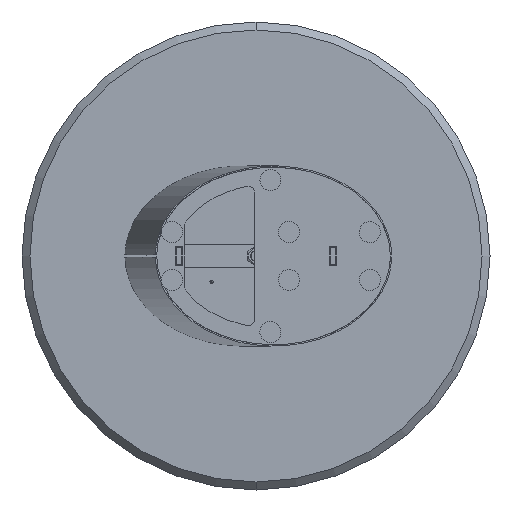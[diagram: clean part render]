
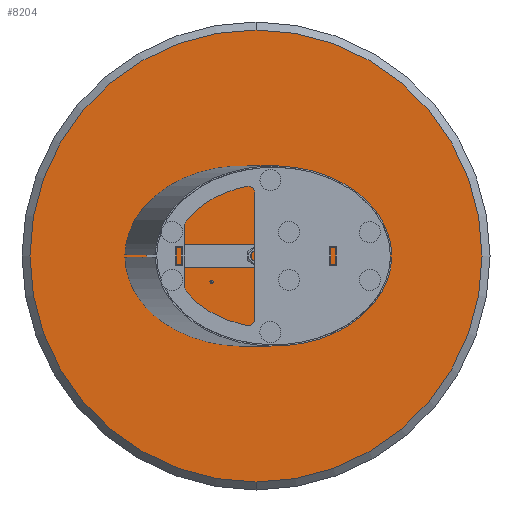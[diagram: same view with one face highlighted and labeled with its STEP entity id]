
A CAD part, front view. The second image highlights one B-rep face of the part: STEP entity #8204.
In plain terms, the highlighted planar face has unit normal (0, -1, 0).
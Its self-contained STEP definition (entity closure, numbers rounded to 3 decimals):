
#185 = DIRECTION ( 'NONE',  ( 0., 0., -1. ) ) ;
#269 = FACE_BOUND ( 'NONE', #642, .T. ) ;
#291 = CARTESIAN_POINT ( 'NONE',  ( 95., 0., -58.248 ) ) ;
#396 = CARTESIAN_POINT ( 'NONE',  ( 0., 0., 113.097 ) ) ;
#400 = DIRECTION ( 'NONE',  ( 0., 0., -1. ) ) ;
#510 = CARTESIAN_POINT ( 'NONE',  ( -95., 0., -54.848 ) ) ;
#642 = EDGE_LOOP ( 'NONE', ( #5388, #2363 ) ) ;
#670 = VERTEX_POINT ( 'NONE', #2116 ) ;
#784 = EDGE_CURVE ( 'NONE', #7513, #5118, #953, .T. ) ;
#846 = CARTESIAN_POINT ( 'NONE',  ( 0., 0., 109.697 ) ) ;
#953 = CIRCLE ( 'NONE', #4978, 3.4 ) ;
#976 = CARTESIAN_POINT ( 'NONE',  ( 95., 0., -54.848 ) ) ;
#1100 = DIRECTION ( 'NONE',  ( 0., -1., 0. ) ) ;
#1106 = ORIENTED_EDGE ( 'NONE', *, *, #784, .F. ) ;
#1277 = AXIS2_PLACEMENT_3D ( 'NONE', #4828, #6727, #400 ) ;
#1329 = ORIENTED_EDGE ( 'NONE', *, *, #5484, .F. ) ;
#1351 = VERTEX_POINT ( 'NONE', #7926 ) ;
#1412 = AXIS2_PLACEMENT_3D ( 'NONE', #2075, #4647, #3858 ) ;
#1541 = AXIS2_PLACEMENT_3D ( 'NONE', #8093, #4265, #2322 ) ;
#1559 = VERTEX_POINT ( 'NONE', #4790 ) ;
#1599 = AXIS2_PLACEMENT_3D ( 'NONE', #846, #8052, #1645 ) ;
#1645 = DIRECTION ( 'NONE',  ( 0., 0., -1. ) ) ;
#1686 = CIRCLE ( 'NONE', #1541, 3.4 ) ;
#1859 = DIRECTION ( 'NONE',  ( 0., 0., -1. ) ) ;
#1903 = DIRECTION ( 'NONE',  ( 0., 0., -1. ) ) ;
#1954 = AXIS2_PLACEMENT_3D ( 'NONE', #7591, #1100, #6790 ) ;
#2021 = DIRECTION ( 'NONE',  ( 0., -1., 0. ) ) ;
#2030 = VERTEX_POINT ( 'NONE', #396 ) ;
#2075 = CARTESIAN_POINT ( 'NONE',  ( 0., 0., 0. ) ) ;
#2116 = CARTESIAN_POINT ( 'NONE',  ( 0., 0., 106.297 ) ) ;
#2218 = PLANE ( 'NONE',  #6534 ) ;
#2309 = AXIS2_PLACEMENT_3D ( 'NONE', #3084, #6366, #1859 ) ;
#2322 = DIRECTION ( 'NONE',  ( 0., 0., -1. ) ) ;
#2336 = AXIS2_PLACEMENT_3D ( 'NONE', #2883, #6031, #3276 ) ;
#2363 = ORIENTED_EDGE ( 'NONE', *, *, #7171, .F. ) ;
#2732 = EDGE_CURVE ( 'NONE', #2030, #670, #3092, .T. ) ;
#2883 = CARTESIAN_POINT ( 'NONE',  ( -95., 0., -54.848 ) ) ;
#2899 = CIRCLE ( 'NONE', #1412, 3.4 ) ;
#2907 = EDGE_CURVE ( 'NONE', #670, #2030, #3628, .T. ) ;
#3028 = CARTESIAN_POINT ( 'NONE',  ( 0., 0., 3.4 ) ) ;
#3084 = CARTESIAN_POINT ( 'NONE',  ( 0., 0., 109.697 ) ) ;
#3092 = CIRCLE ( 'NONE', #1599, 3.4 ) ;
#3220 = VERTEX_POINT ( 'NONE', #5214 ) ;
#3224 = EDGE_CURVE ( 'NONE', #4401, #3220, #7033, .T. ) ;
#3276 = DIRECTION ( 'NONE',  ( 0., 0., -1. ) ) ;
#3360 = FACE_OUTER_BOUND ( 'NONE', #3806, .T. ) ;
#3479 = FACE_BOUND ( 'NONE', #5066, .T. ) ;
#3511 = ORIENTED_EDGE ( 'NONE', *, *, #5368, .F. ) ;
#3528 = AXIS2_PLACEMENT_3D ( 'NONE', #5293, #2021, #1903 ) ;
#3553 = ORIENTED_EDGE ( 'NONE', *, *, #2732, .F. ) ;
#3613 = CARTESIAN_POINT ( 'NONE',  ( 95., 0., -51.448 ) ) ;
#3622 = EDGE_LOOP ( 'NONE', ( #4473, #3553 ) ) ;
#3628 = CIRCLE ( 'NONE', #2309, 3.4 ) ;
#3806 = EDGE_LOOP ( 'NONE', ( #8310, #4226 ) ) ;
#3858 = DIRECTION ( 'NONE',  ( 0., 0., -1. ) ) ;
#4017 = DIRECTION ( 'NONE',  ( 0., 0., -1. ) ) ;
#4226 = ORIENTED_EDGE ( 'NONE', *, *, #7159, .T. ) ;
#4265 = DIRECTION ( 'NONE',  ( 0., -1., 0. ) ) ;
#4358 = AXIS2_PLACEMENT_3D ( 'NONE', #510, #6332, #8099 ) ;
#4401 = VERTEX_POINT ( 'NONE', #5725 ) ;
#4473 = ORIENTED_EDGE ( 'NONE', *, *, #2907, .F. ) ;
#4636 = CIRCLE ( 'NONE', #1277, 3.4 ) ;
#4647 = DIRECTION ( 'NONE',  ( 0., -1., 0. ) ) ;
#4749 = CIRCLE ( 'NONE', #4358, 3.4 ) ;
#4787 = CARTESIAN_POINT ( 'NONE',  ( 0., 0., 0. ) ) ;
#4790 = CARTESIAN_POINT ( 'NONE',  ( 0., 0., -3.4 ) ) ;
#4828 = CARTESIAN_POINT ( 'NONE',  ( 95., 0., -54.848 ) ) ;
#4897 = ORIENTED_EDGE ( 'NONE', *, *, #6509, .F. ) ;
#4978 = AXIS2_PLACEMENT_3D ( 'NONE', #976, #6117, #4017 ) ;
#5066 = EDGE_LOOP ( 'NONE', ( #1329, #3511 ) ) ;
#5118 = VERTEX_POINT ( 'NONE', #3613 ) ;
#5214 = CARTESIAN_POINT ( 'NONE',  ( 0., 0., -483. ) ) ;
#5293 = CARTESIAN_POINT ( 'NONE',  ( 0., 0., 0. ) ) ;
#5368 = EDGE_CURVE ( 'NONE', #7372, #1351, #6635, .T. ) ;
#5388 = ORIENTED_EDGE ( 'NONE', *, *, #7009, .F. ) ;
#5484 = EDGE_CURVE ( 'NONE', #1351, #7372, #4749, .T. ) ;
#5568 = EDGE_LOOP ( 'NONE', ( #1106, #4897 ) ) ;
#5725 = CARTESIAN_POINT ( 'NONE',  ( 0., 0., 483. ) ) ;
#5958 = DIRECTION ( 'NONE',  ( 0., -1., 0. ) ) ;
#6031 = DIRECTION ( 'NONE',  ( 0., -1., 0. ) ) ;
#6048 = FACE_BOUND ( 'NONE', #3622, .T. ) ;
#6117 = DIRECTION ( 'NONE',  ( 0., -1., 0. ) ) ;
#6259 = CIRCLE ( 'NONE', #1954, 483. ) ;
#6332 = DIRECTION ( 'NONE',  ( 0., -1., 0. ) ) ;
#6366 = DIRECTION ( 'NONE',  ( 0., -1., 0. ) ) ;
#6468 = VERTEX_POINT ( 'NONE', #3028 ) ;
#6509 = EDGE_CURVE ( 'NONE', #5118, #7513, #4636, .T. ) ;
#6534 = AXIS2_PLACEMENT_3D ( 'NONE', #4787, #5958, #185 ) ;
#6635 = CIRCLE ( 'NONE', #2336, 3.4 ) ;
#6727 = DIRECTION ( 'NONE',  ( 0., -1., 0. ) ) ;
#6790 = DIRECTION ( 'NONE',  ( 0., 0., -1. ) ) ;
#7009 = EDGE_CURVE ( 'NONE', #1559, #6468, #2899, .T. ) ;
#7033 = CIRCLE ( 'NONE', #3528, 483. ) ;
#7159 = EDGE_CURVE ( 'NONE', #3220, #4401, #6259, .T. ) ;
#7171 = EDGE_CURVE ( 'NONE', #6468, #1559, #1686, .T. ) ;
#7234 = FACE_BOUND ( 'NONE', #5568, .T. ) ;
#7372 = VERTEX_POINT ( 'NONE', #8320 ) ;
#7513 = VERTEX_POINT ( 'NONE', #291 ) ;
#7591 = CARTESIAN_POINT ( 'NONE',  ( 0., 0., 0. ) ) ;
#7926 = CARTESIAN_POINT ( 'NONE',  ( -95., 0., -58.248 ) ) ;
#8052 = DIRECTION ( 'NONE',  ( 0., -1., 0. ) ) ;
#8093 = CARTESIAN_POINT ( 'NONE',  ( 0., 0., 0. ) ) ;
#8099 = DIRECTION ( 'NONE',  ( 0., 0., -1. ) ) ;
#8204 = ADVANCED_FACE ( 'NONE', ( #3479, #6048, #7234, #3360, #269 ), #2218, .T. ) ;
#8310 = ORIENTED_EDGE ( 'NONE', *, *, #3224, .T. ) ;
#8320 = CARTESIAN_POINT ( 'NONE',  ( -95., 0., -51.448 ) ) ;
